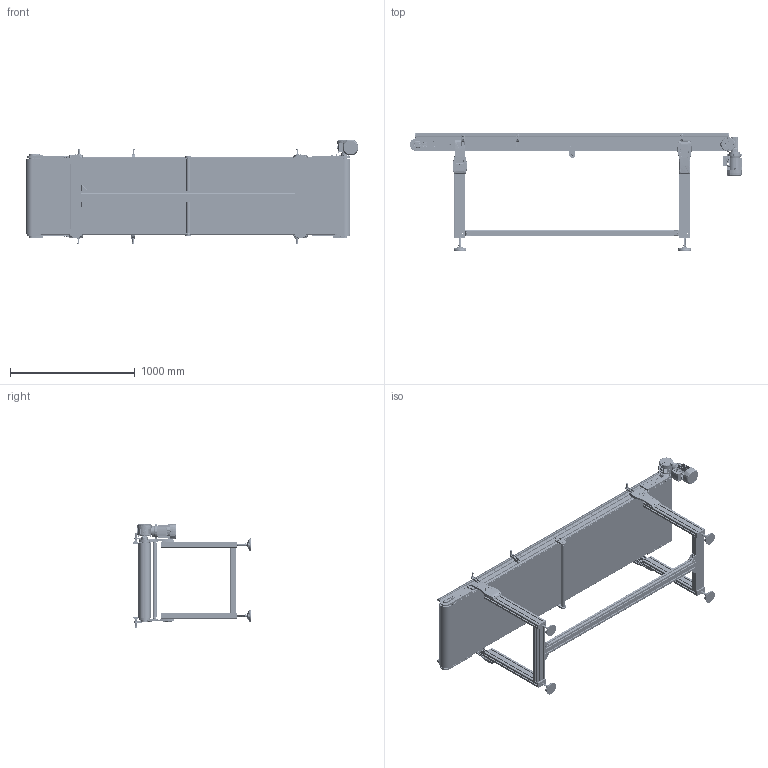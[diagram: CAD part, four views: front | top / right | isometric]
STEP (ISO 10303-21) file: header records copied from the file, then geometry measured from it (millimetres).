
FILE_DESCRIPTION (( 'STEP AP203' ), '1' );
FILE_NAME ('NASTRO_RETTILINEO_TAPPETO.step', '2026-04-27T11:20:35', ( 'Utente Windows' ), ( '' ), 'SwSTEP 2.0', 'SolidWorks 2024', '' );
FILE_SCHEMA (( 'CONFIG_CONTROL_DESIGN' ));
Length unit declared in the file: millimetre
Products named in the file (73): 084.711.006_PER CAVA 8 PERNO ALTO 1; 084.201.019; TELAIO_95_CINGHIE_Default<A macchina>; 2010.000.073; ANGOLARE_43; 084.803.003; 084.808.002_084.808.002; VITE_DADO_M5X12; 084.803.017; 084.802.013-2; 084.802.034_084.802.034; PERNO_95_RINVIO_CINGHIE; 084.305.003-1; 084.802.028; RULLO_95_CINGHIE_Default<A macchina>; VITI TSEI UNI 5933_M4x12 UNI 5933; 084.303.001; DADI ESAGONALI NORMALI UNI 5588_M6 UNI 5588; 084.802.017_084.802.017; TRAVERSA_95_Default<A macchina>; CH05P_DX; GUIDA_CINGHIA_Z_95; 084.802.067_Default<A macchina>; VITI TCEI UNI 5931_M6x12 UNI 5931; 084.711.007; 2010.000.072_L_Default<A macchina>; PERNO_95_TRAINO_CINGHIE_49_DX_Default<A macchina>; 084.712.002; 084.802.014; BLOCCO_REGGITAPPETO; VITI TE UNI 5739_M6x12 UNI 5739; NASTRO_RETTILINEO_TAPPETO; FLANGIA_GAMBA_95_CON GIUNTI; 084.802.062; VITI TE UNI 5739_M8x12 UNI 5739; RONDELLE UNI 6592_8.4x17 UNI 6592; 084.405.001; 084.302.000 DADI ALUSIC 13x13-1_084.302.007; TAPPETO_STANDARD_CINGHIE; BLOCCO_TRAINO_95_STANDARD_CON TENDINASTRO E CARTER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
Assembly tree (226 placements, depth 4):
  NASTRO_RETTILINEO_TAPPETO
    TAPPETO_STANDARD_CINGHIE
    TELAIO_95_CINGHIE_Default<A macchina>
    LAMIERA_STANDARD  x2
    RULLO_95_CINGHIE_Default<A macchina>  x2
    PERNO_95_TRAINO_CINGHIE_49_DX_Default<A macchina>
    BLOCCO_TRAINO_95_STANDARD_49_DX_CON TENDINASTRO E SENZA CARTER
      084.808.003_084.808.003
      084.302.060  x2
      084.802.034_084.802.034
      084.301.000 VITI ALUSIC_084.301.003  x6
      084.802.067_Default<A macchina>
      VITI TCEI UNI 5931_M4x25 UNI 5931  x2
      BLOCCO_BRACCIO_CH05P_CH05P
        084.808.013
        084.802.062
        084.802.060_Default<A macchina>
        VITI TE UNI 5739_M8x12 UNI 5739  x4
        VITI TE UNI 5739_M6x12 UNI 5739  x4
        084.803.017
        VITI TCEI UNI 5931_M6x12 UNI 5931  x4
    BLOCCO_TRAINO_95_STANDARD_CON TENDINASTRO E CARTER
      084.808.002_084.808.002
      084.302.060  x2
      084.802.019_084.802.019
      084.301.000 VITI ALUSIC_084.301.003  x6
      VITI TCEI UNI 5931_M4x25 UNI 5931  x2
      084.802.071
      084.802.068
      VITI TSEI UNI 5933_M4x12 UNI 5933  x2
    GUIDA_CINGHIA_Z_95  x6
      449.014.106
      DADO ESAGONALE M30 AUTOBLOCCANTE UNI 7473_M30 UNI 7473
    PERNO_95_RINVIO_CINGHIE
    BLOCCO_RINVIO_95_STANDARD_CON TENDINASTRO E CARTER  x2
      084.808.002_084.808.002
      084.803.003
      084.302.060
      084.802.019_084.802.019
      VITI TSEI UNI 5933_M4x12 UNI 5933
      084.302.000 DADI ALUSIC 13x13-1_084.302.004
      084.301.000 VITI ALUSIC_084.301.003
      084.802.071
    SPONDA_Default<A macchina>  x2
    084.711.006_PER CAVA 8 PERNO ALTO 1  x6
      084.711.006_L1
      084.711.006_L2
      084.711.007
      084.711.005
      084.711.010
      DADI ESAGONALI NORMALI UNI 5588_M6 UNI 5588
    084.712.002  x4
    GAMBE_D95_Default<A macchina>  x2
    FLANGIA_GAMBA_95_CON GIUNTI
      2010.000.072
        2010.000.072_L_Default<A macchina>
        2010.000.073
        2010.000.074
      084.302.000 DADI ALUSIC 13x13-1_084.302.004  x6
      RONDELLE UNI 6592_8.4x17 UNI 6592  x7
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Bounding box: 2659.8 x 940.5 x 834.63 mm (x, y, z)
Volume: 38843677.1 mm3; surface area: 24706144.8 mm2
Topology: 410 solids, 415 shells, 20417 faces, 52579 edges, 33215 vertices
Faces by surface type: plane 8766, cylinder 5868, bspline 2323, cone 1886, torus 1366, sphere 208
Entity records: 331837 total; most frequent: CARTESIAN_POINT 128248, ORIENTED_EDGE 42316, DIRECTION 37546, EDGE_CURVE 21158, VERTEX_POINT 13474, AXIS2_PLACEMENT_3D 13147, VECTOR 11252, LINE 11252
